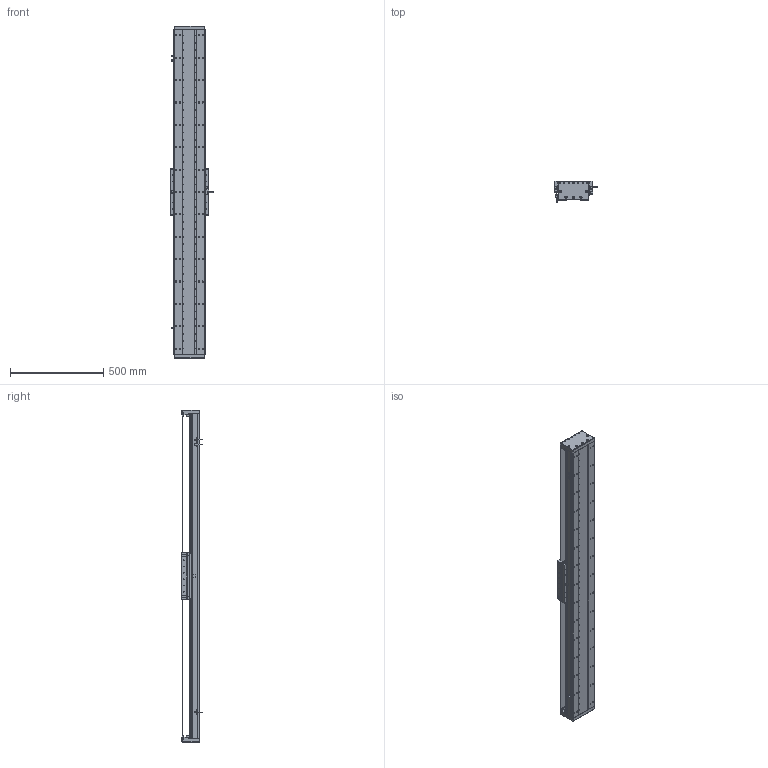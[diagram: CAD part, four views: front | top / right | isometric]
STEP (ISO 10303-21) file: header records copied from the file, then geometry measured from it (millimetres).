
FILE_DESCRIPTION (( 'STEP AP203' ), '1' );
FILE_NAME ('DA-C165-C3-T1440-C010-0.2 直线电机.STEP', '2023-06-13T08:46:18', ( '微软用户' ), ( '微软中国' ), 'SwSTEP 2.0', 'SolidWorks 2019', '' );
FILE_SCHEMA (( 'CONFIG_CONTROL_DESIGN' ));
Length unit declared in the file: millimetre
Products named in the file (18): IU-CU165-L 菁釱絳寢; 复件 CU165钢带组件^DA-C165-C3-T-C010-0.2-N 直线电机; 珨极趙賑雄怢啣C3-wf; 复件 六角薄螺母 M3^DA-C165-C3-T-C010-0.2-N 直线电机_GB_FASTENER_NUT_STNAB M3-C; 复件 DA95-HXJ-00 缓冲橡胶^DA-C165-C3-T-C010-0.2-N 直线电机; 葩璃 CKM01-W075-TRL^DA-C165-C3-T-C010-0.2-N 眻盄萇儂; 复件 DA165-GYP-00 光电感应片^DA-C165-C3-T-C010-0.2-N 直线电机; 葩璃 DA95-GT-T-00^IU-CU165-L 菁釱絳寢_T; 复件 CU165 底座^IU-CU165-L 底座导轨_L1740; DA-C165-C3-T1440-C010-0.2 眻盄萇儂; 葩璃 PM-T45^DA-C165-C3-T-C010-0.2-N 眻盄萇儂; 复件 DA165-GD-DG-H-00 端盖^复件 CU165钢带组件_DA-C165-C3-T-C010-0.2-N 直线电机; 复件 DA165-GD-1860-002-00 钢带盖板^复件 CU165钢带组件_DA-C165-C3-T-C010-0.2-N 直线电机; 复件 DA165-GDLK-00 钢带拉块^复件 CU165钢带组件_DA-C165-C3-T-C010-0.2-N 直线电机; 复件 DMA-010-0.2 读数头^DA-C165-C3-T-C010-0.2-N 直线电机; 葩璃 CKM03-W075-C1C2-TP-3.0^DA-C165-C3-T-C010-0.2-N 眻盄萇儂; 复件 DA165-GDYK-00 钢带压块^复件 CU165钢带组件_DA-C165-C3-T-C010-0.2-N 直线电机; 复件 XD-U-02L 磁栅尺^DA-C165-C3-T-C010-0.2-N 直线电机_T
Assembly tree (35 placements, depth 3):
  DA-C165-C3-T1440-C010-0.2 眻盄萇儂
    IU-CU165-L 菁釱絳寢
      复件 CU165 底座^IU-CU165-L 底座导轨_L1740
      葩璃 DA95-GT-T-00^IU-CU165-L 菁釱絳寢_T  x4
    复件 XD-U-02L 磁栅尺^DA-C165-C3-T-C010-0.2-N 直线电机_T
    葩璃 PM-T45^DA-C165-C3-T-C010-0.2-N 眻盄萇儂  x3
    葩璃 CKM01-W075-TRL^DA-C165-C3-T-C010-0.2-N 眻盄萇儂
    复件 CU165钢带组件^DA-C165-C3-T-C010-0.2-N 直线电机
      复件 DA165-GD-DG-H-00 端盖^复件 CU165钢带组件_DA-C165-C3-T-C010-0.2-N 直线电机  x2
      复件 DA165-GDYK-00 钢带压块^复件 CU165钢带组件_DA-C165-C3-T-C010-0.2-N 直线电机  x2
      复件 DA165-GD-1860-002-00 钢带盖板^复件 CU165钢带组件_DA-C165-C3-T-C010-0.2-N 直线电机
      复件 DA165-GDLK-00 钢带拉块^复件 CU165钢带组件_DA-C165-C3-T-C010-0.2-N 直线电机  x2
    复件 DA95-HXJ-00 缓冲橡胶^DA-C165-C3-T-C010-0.2-N 直线电机  x4
    复件 DA165-GYP-00 光电感应片^DA-C165-C3-T-C010-0.2-N 直线电机
    复件 DMA-010-0.2 读数头^DA-C165-C3-T-C010-0.2-N 直线电机
    葩璃 CKM03-W075-C1C2-TP-3.0^DA-C165-C3-T-C010-0.2-N 眻盄萇儂
    复件 六角薄螺母 M3^DA-C165-C3-T-C010-0.2-N 直线电机_GB_FASTENER_NUT_STNAB M3-C  x8
    珨极趙賑雄怢啣C3-wf
Bounding box: 233 x 111.45 x 1780 mm (x, y, z)
Volume: 11093241.1 mm3; surface area: 3179583 mm2
Topology: 72 solids, 122 shells, 3942 faces, 10907 edges, 6828 vertices
Faces by surface type: cylinder 2128, plane 1188, cone 576, torus 46, sphere 4
Entity records: 122671 total; most frequent: CARTESIAN_POINT 31283, DIRECTION 18693, ORIENTED_EDGE 18566, EDGE_CURVE 9283, AXIS2_PLACEMENT_3D 7144, VERTEX_POINT 6016, LINE 4405, VECTOR 4405
